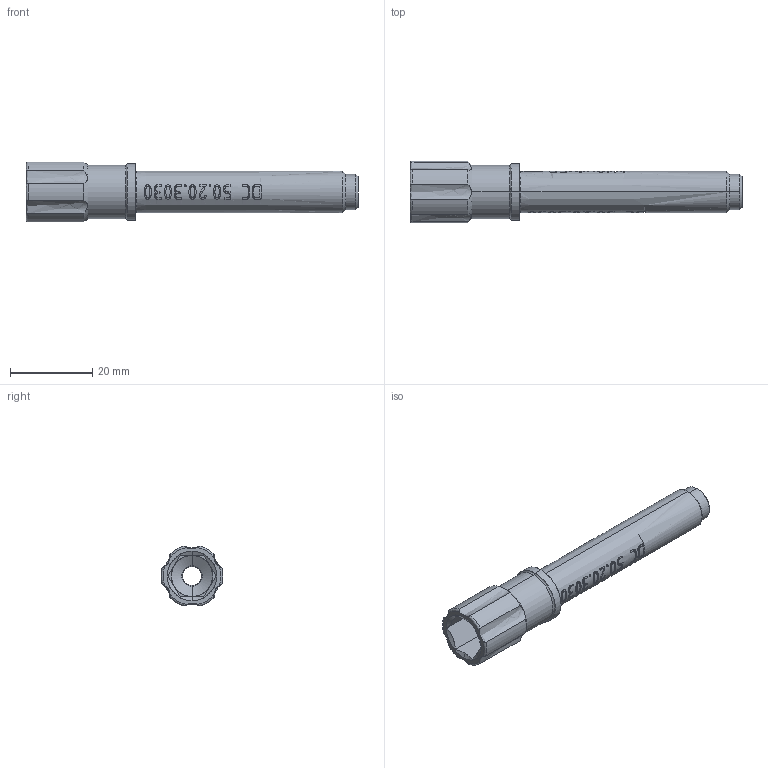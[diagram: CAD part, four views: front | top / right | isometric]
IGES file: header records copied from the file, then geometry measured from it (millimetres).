
Start section: SolidWorks IGES file using analytic representation for surfaces
Global section: file name: C:\Users\e.bondaruk\Desktop\縺 嚦闉鍙酀50.20.3030.IGS; native system: SolidWorks 2022; preprocessor: SolidWorks 2022; author: e.bondaruk; date: 230210.132622; units: millimetre
Bounding box: 80.5 x 15 x 14.52 mm (x, y, z)
Surface area: 4684.8 mm2 (no closed solid volume)
Topology: 0 solids, 0 shells, 413 faces, 6774 edges, 6774 vertices
Faces by surface type: bspline 346, revolution 67
